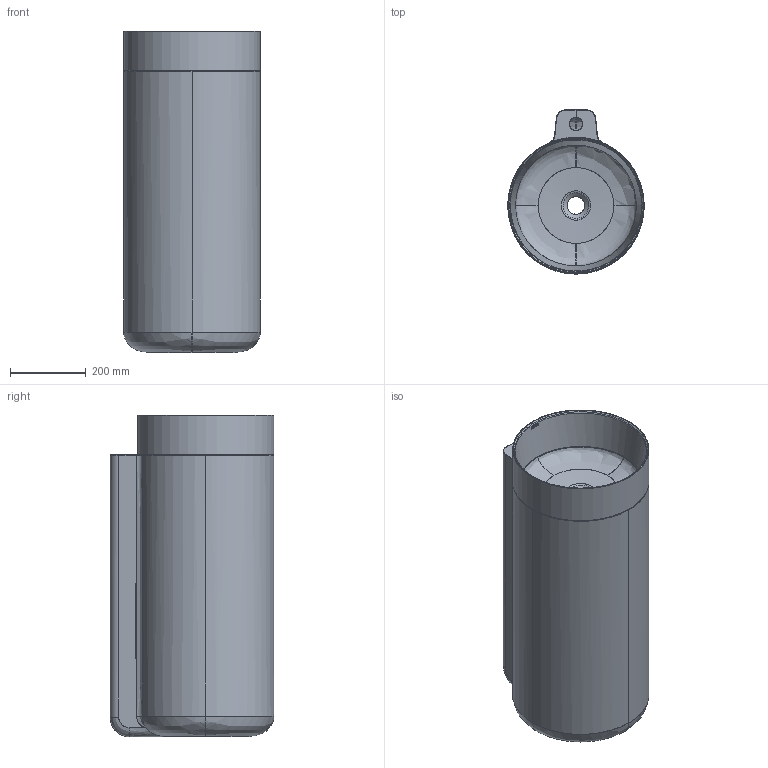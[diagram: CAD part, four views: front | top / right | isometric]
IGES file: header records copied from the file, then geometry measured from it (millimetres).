
Global section: file name: C:\Users\User\Desktop\6052_Pisa.igs; native system: Rhinoceros ( May  7 2021 ); preprocessor: Trout Lake IGES 012 May  7 2021; date: 231113.134623; units: millimetre
Bounding box: 360 x 432.3 x 850 mm (x, y, z)
Surface area: 2284339.1 mm2 (no closed solid volume)
Topology: 0 solids, 0 shells, 251 faces, 1581 edges, 1552 vertices
Faces by surface type: bspline 251
